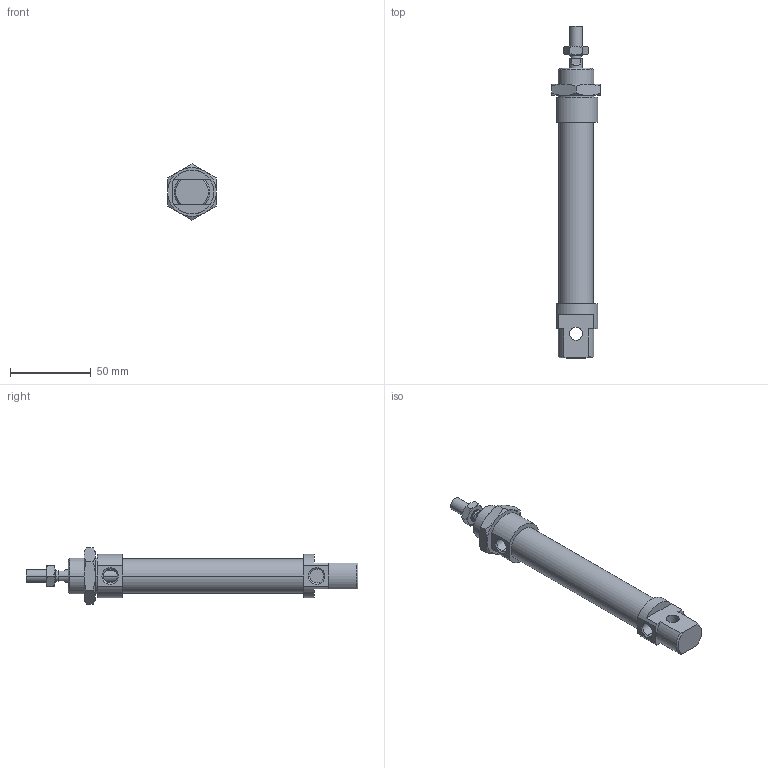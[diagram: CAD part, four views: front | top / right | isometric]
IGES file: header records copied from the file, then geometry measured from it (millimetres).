
Global section: file name: No Iges File Name specified; native system: Autodesk Inventor 2010; preprocessor: AutoDesk Inventor Iges Exporter R2010; author: rivolro1; date: 20090604.093254; units: millimetre
Bounding box: 30 x 205 x 34.64 mm (x, y, z)
Volume: 70830.9 mm3; surface area: 23296.5 mm2
Topology: 4 solids, 4 shells, 110 faces, 249 edges, 152 vertices
Faces by surface type: plane 41, cone 28, bspline 21, cylinder 14, revolution 6
